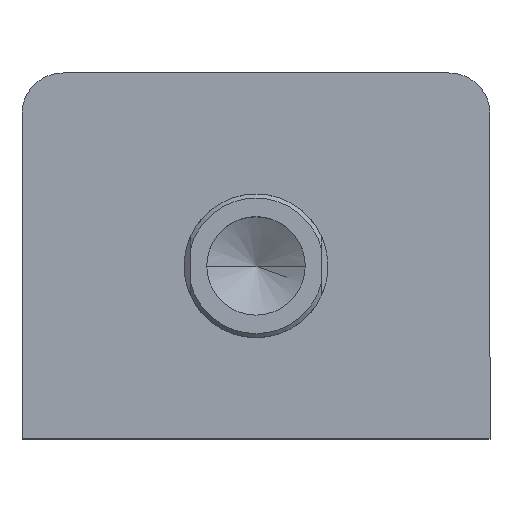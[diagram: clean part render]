
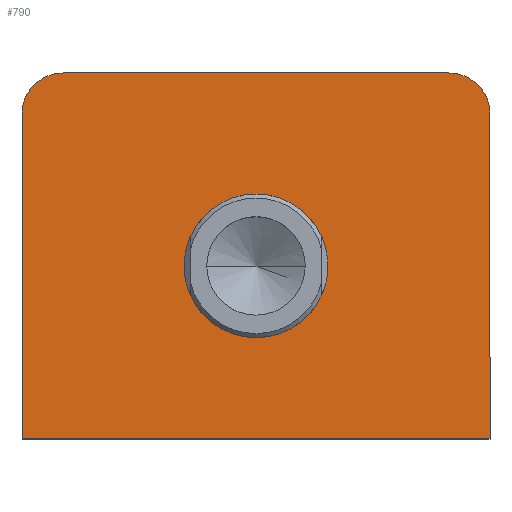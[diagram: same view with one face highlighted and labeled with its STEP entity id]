
A CAD part, top view. The second image highlights one B-rep face of the part: STEP entity #790.
In plain terms, the highlighted planar face has unit normal (0, 0, 1).
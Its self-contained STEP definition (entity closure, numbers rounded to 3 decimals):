
#73 = CARTESIAN_POINT ( 'NONE',  ( 0., 0., 92. ) ) ;
#76 = PLANE ( 'NONE',  #2792 ) ;
#78 = DIRECTION ( 'NONE',  ( 0., 0., 1. ) ) ;
#79 = DIRECTION ( 'NONE',  ( 1., 0., 0. ) ) ;
#88 = ORIENTED_EDGE ( 'NONE', *, *, #2899, .T. ) ;
#89 = ORIENTED_EDGE ( 'NONE', *, *, #2855, .T. ) ;
#415 = CARTESIAN_POINT ( 'NONE',  ( -17.5, -2.5, 92. ) ) ;
#416 = CARTESIAN_POINT ( 'NONE',  ( 17.5, -2.5, 92. ) ) ;
#420 = CARTESIAN_POINT ( 'NONE',  ( 57., -44.5, 92. ) ) ;
#423 = CARTESIAN_POINT ( 'NONE',  ( 57., 34.5, 92. ) ) ;
#431 = CARTESIAN_POINT ( 'NONE',  ( -57., -44.5, 92. ) ) ;
#543 = FACE_OUTER_BOUND ( 'NONE', #2565, .T. ) ;
#549 = FACE_BOUND ( 'NONE', #2564, .T. ) ;
#574 = LINE ( 'NONE', #830, #578 ) ;
#578 = VECTOR ( 'NONE', #839, 1000. ) ;
#591 = LINE ( 'NONE', #2416, #2323 ) ;
#790 = ADVANCED_FACE ( 'NONE', ( #549, #543 ), #76, .T. ) ;
#830 = CARTESIAN_POINT ( 'NONE',  ( -57., 44.5, 92. ) ) ;
#839 = DIRECTION ( 'NONE',  ( 0., -1., 0. ) ) ;
#896 = ORIENTED_EDGE ( 'NONE', *, *, #2892, .F. ) ;
#898 = ORIENTED_EDGE ( 'NONE', *, *, #2890, .F. ) ;
#900 = ORIENTED_EDGE ( 'NONE', *, *, #2867, .T. ) ;
#902 = ORIENTED_EDGE ( 'NONE', *, *, #2851, .T. ) ;
#904 = ORIENTED_EDGE ( 'NONE', *, *, #2778, .T. ) ;
#906 = ORIENTED_EDGE ( 'NONE', *, *, #2802, .T. ) ;
#1026 = VERTEX_POINT ( 'NONE', #2014 ) ;
#1028 = VERTEX_POINT ( 'NONE', #2016 ) ;
#1034 = VERTEX_POINT ( 'NONE', #2618 ) ;
#1292 = CARTESIAN_POINT ( 'NONE',  ( 47., 34.5, 92. ) ) ;
#1293 = DIRECTION ( 'NONE',  ( 0., 0., 1. ) ) ;
#1294 = DIRECTION ( 'NONE',  ( 1., 0., 0. ) ) ;
#1318 = CARTESIAN_POINT ( 'NONE',  ( -57., 44.5, 92. ) ) ;
#1319 = DIRECTION ( 'NONE',  ( -1., 0., 0. ) ) ;
#1377 = CARTESIAN_POINT ( 'NONE',  ( 0., -2.5, 92. ) ) ;
#1378 = DIRECTION ( 'NONE',  ( 0., 0., 1. ) ) ;
#1379 = DIRECTION ( 'NONE',  ( 1., 0., 0. ) ) ;
#1382 = CARTESIAN_POINT ( 'NONE',  ( 0., -2.5, 92. ) ) ;
#1383 = DIRECTION ( 'NONE',  ( 0., 0., 1. ) ) ;
#1384 = DIRECTION ( 'NONE',  ( 1., 0., 0. ) ) ;
#1394 = CARTESIAN_POINT ( 'NONE',  ( 57., 44.5, 92. ) ) ;
#1395 = DIRECTION ( 'NONE',  ( 0., 1., 0. ) ) ;
#1411 = VERTEX_POINT ( 'NONE', #415 ) ;
#1412 = VERTEX_POINT ( 'NONE', #416 ) ;
#1416 = VERTEX_POINT ( 'NONE', #420 ) ;
#1419 = VERTEX_POINT ( 'NONE', #423 ) ;
#1488 = LINE ( 'NONE', #1318, #1491 ) ;
#1491 = VECTOR ( 'NONE', #1319, 1000. ) ;
#1523 = CIRCLE ( 'NONE', #2744, 17.5 ) ;
#1524 = CIRCLE ( 'NONE', #2745, 17.5 ) ;
#1540 = LINE ( 'NONE', #1394, #2086 ) ;
#1546 = VERTEX_POINT ( 'NONE', #431 ) ;
#1669 = CARTESIAN_POINT ( 'NONE',  ( -47., 34.5, 92. ) ) ;
#1670 = DIRECTION ( 'NONE',  ( 0., 0., 1. ) ) ;
#1671 = DIRECTION ( 'NONE',  ( 1., 0., 0. ) ) ;
#2014 = CARTESIAN_POINT ( 'NONE',  ( 47., 44.5, 92. ) ) ;
#2016 = CARTESIAN_POINT ( 'NONE',  ( -47., 44.5, 92. ) ) ;
#2086 = VECTOR ( 'NONE', #1395, 1000. ) ;
#2323 = VECTOR ( 'NONE', #2417, 1000. ) ;
#2389 = CIRCLE ( 'NONE', #2724, 10. ) ;
#2393 = CIRCLE ( 'NONE', #2730, 10. ) ;
#2416 = CARTESIAN_POINT ( 'NONE',  ( -57., -44.5, 92. ) ) ;
#2417 = DIRECTION ( 'NONE',  ( 1., 0., 0. ) ) ;
#2564 = EDGE_LOOP ( 'NONE', ( #896, #898 ) ) ;
#2565 = EDGE_LOOP ( 'NONE', ( #900, #902, #904, #906, #88, #89 ) ) ;
#2618 = CARTESIAN_POINT ( 'NONE',  ( -57., 34.5, 92. ) ) ;
#2724 = AXIS2_PLACEMENT_3D ( 'NONE', #1669, #1670, #1671 ) ;
#2730 = AXIS2_PLACEMENT_3D ( 'NONE', #1292, #1293, #1294 ) ;
#2744 = AXIS2_PLACEMENT_3D ( 'NONE', #1382, #1383, #1384 ) ;
#2745 = AXIS2_PLACEMENT_3D ( 'NONE', #1377, #1378, #1379 ) ;
#2778 = EDGE_CURVE ( 'NONE', #1034, #1546, #574, .T. ) ;
#2792 = AXIS2_PLACEMENT_3D ( 'NONE', #73, #78, #79 ) ;
#2802 = EDGE_CURVE ( 'NONE', #1546, #1416, #591, .T. ) ;
#2851 = EDGE_CURVE ( 'NONE', #1028, #1034, #2389, .T. ) ;
#2855 = EDGE_CURVE ( 'NONE', #1419, #1026, #2393, .T. ) ;
#2867 = EDGE_CURVE ( 'NONE', #1026, #1028, #1488, .T. ) ;
#2890 = EDGE_CURVE ( 'NONE', #1411, #1412, #1524, .T. ) ;
#2892 = EDGE_CURVE ( 'NONE', #1412, #1411, #1523, .T. ) ;
#2899 = EDGE_CURVE ( 'NONE', #1416, #1419, #1540, .T. ) ;
